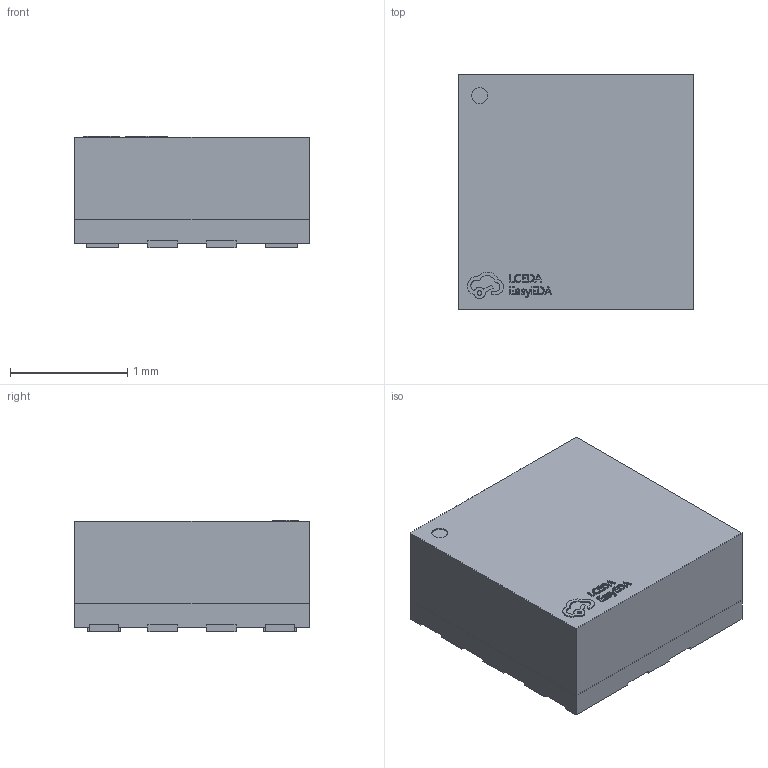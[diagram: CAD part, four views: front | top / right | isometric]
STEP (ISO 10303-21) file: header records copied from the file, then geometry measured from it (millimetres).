
FILE_DESCRIPTION (( 'STEP AP214' ), '1' );
FILE_NAME ('VLGA-12_L2.0-W2.0-P0.50-BL.STEP', '2022-06-13T01:39:58', ( 'PC' ), ( 'Microsoft' ), 'SwSTEP 2.0', 'SolidWorks 2020', '' );
FILE_SCHEMA (( 'AUTOMOTIVE_DESIGN' ));
Length unit declared in the file: millimetre
Products named in the file (1): VLGA-12_L2.0-W2.0-P0.50-BL
Bounding box: 2 x 2 x 0.95 mm (x, y, z)
Volume: 3.6 mm3; surface area: 25.8 mm2
Topology: 14 solids, 14 shells, 360 faces, 936 edges, 624 vertices
Faces by surface type: plane 260, bspline 98, cylinder 2
Entity records: 15507 total; most frequent: CARTESIAN_POINT 3227, ORIENTED_EDGE 1872, DIRECTION 1266, EDGE_CURVE 936, LINE 732, VECTOR 732, VERTEX_POINT 624, EDGE_LOOP 380
